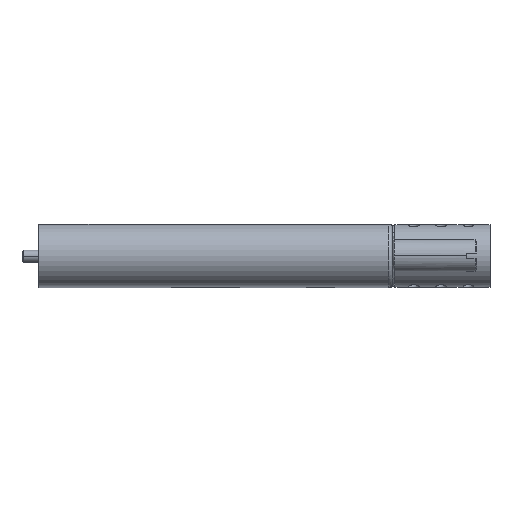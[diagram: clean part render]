
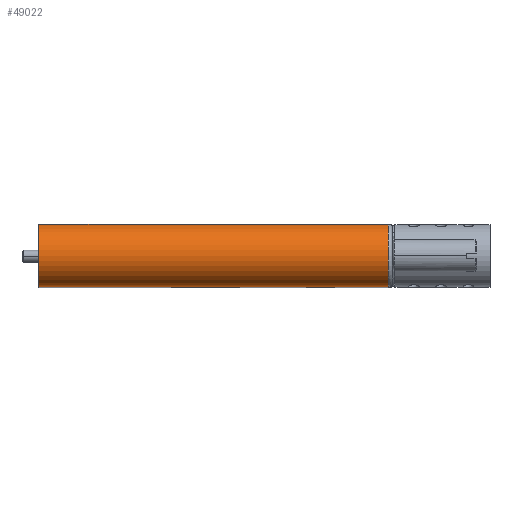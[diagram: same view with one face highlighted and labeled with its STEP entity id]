
A CAD part, top view. The second image highlights one B-rep face of the part: STEP entity #49022.
In plain terms, the highlighted cylindrical face has radius 6.096 mm (diameter 12.192 mm), a partial arc.
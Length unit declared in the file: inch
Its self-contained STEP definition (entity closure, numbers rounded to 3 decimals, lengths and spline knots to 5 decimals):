
#2393=CARTESIAN_POINT('',(-0.223,0.,1.57));
#2394=DIRECTION('',(-1.,0.,0.));
#2395=DIRECTION('',(0.,-1.,0.));
#2396=AXIS2_PLACEMENT_3D('',#2393,#2394,#2395);
#4240=DIRECTION('',(-1.,0.,0.));
#4241=VECTOR('',#4240,2.683);
#4242=CARTESIAN_POINT('',(2.46,0.24,1.57));
#4243=LINE('',#4242,#4241);
#4272=DIRECTION('',(-1.,0.,0.));
#4273=VECTOR('',#4272,2.683);
#4274=CARTESIAN_POINT('',(2.46,-0.24,1.57));
#4275=LINE('',#4274,#4273);
#4276=CARTESIAN_POINT('',(2.46,0.,1.57));
#4277=DIRECTION('',(-1.,0.,0.));
#4278=DIRECTION('',(0.,-1.,0.));
#4279=AXIS2_PLACEMENT_3D('',#4276,#4277,#4278);
#34296=CARTESIAN_POINT('',(2.46,-0.24,1.57));
#34297=VERTEX_POINT('',#34296);
#34300=CARTESIAN_POINT('',(2.46,0.24,1.57));
#34301=VERTEX_POINT('',#34300);
#34888=CARTESIAN_POINT('',(-0.223,-0.24,1.57));
#34890=VERTEX_POINT('',#34888);
#34891=CARTESIAN_POINT('',(-0.223,0.24,1.57));
#34892=VERTEX_POINT('',#34891);
#49010=CARTESIAN_POINT('',(0.,0.,1.57));
#49011=DIRECTION('',(-1.,0.,0.));
#49012=DIRECTION('',(0.,-1.,0.));
#49013=AXIS2_PLACEMENT_3D('',#49010,#49011,#49012);
#49014=CYLINDRICAL_SURFACE('',#49013,0.24);
#49015=ORIENTED_EDGE('',*,*,#48281,.T.);
#49016=ORIENTED_EDGE('',*,*,#48239,.T.);
#49017=ORIENTED_EDGE('',*,*,#48993,.F.);
#49019=ORIENTED_EDGE('',*,*,#49018,.F.);
#49020=EDGE_LOOP('',(#49015,#49016,#49017,#49019));
#49021=FACE_OUTER_BOUND('',#49020,.F.);
#49022=ADVANCED_FACE('',(#49021),#49014,.T.);
#2397=CIRCLE('',#2396,0.24);
#4280=CIRCLE('',#4279,0.24);
#48239=EDGE_CURVE('',#34890,#34892,#2397,.T.);
#48281=EDGE_CURVE('',#34297,#34890,#4275,.T.);
#48993=EDGE_CURVE('',#34301,#34892,#4243,.T.);
#49018=EDGE_CURVE('',#34297,#34301,#4280,.T.);
